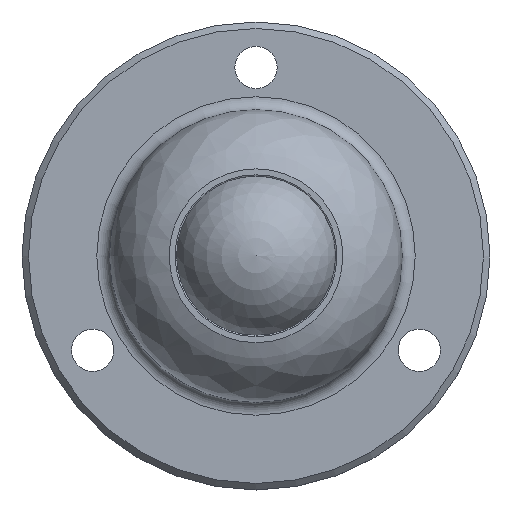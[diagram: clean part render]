
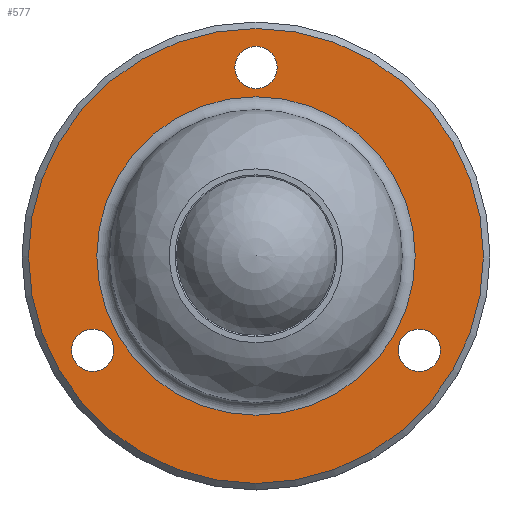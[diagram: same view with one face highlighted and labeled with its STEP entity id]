
A CAD part, top view. The second image highlights one B-rep face of the part: STEP entity #577.
In plain terms, the highlighted planar face has unit normal (0, 0, 1).
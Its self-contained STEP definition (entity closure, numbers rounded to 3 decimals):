
#64=FACE_BOUND('',#204,.T.);
#65=FACE_BOUND('',#205,.T.);
#66=FACE_BOUND('',#206,.T.);
#67=FACE_BOUND('',#207,.T.);
#109=PLANE('',#654);
#141=FACE_OUTER_BOUND('',#203,.T.);
#203=EDGE_LOOP('',(#474));
#204=EDGE_LOOP('',(#475));
#205=EDGE_LOOP('',(#476));
#206=EDGE_LOOP('',(#477));
#207=EDGE_LOOP('',(#478));
#247=CIRCLE('',#625,3.25);
#249=CIRCLE('',#628,3.25);
#251=CIRCLE('',#631,3.25);
#261=CIRCLE('',#653,35.);
#262=CIRCLE('',#655,24.5);
#298=VERTEX_POINT('',#934);
#300=VERTEX_POINT('',#939);
#302=VERTEX_POINT('',#944);
#312=VERTEX_POINT('',#976);
#313=VERTEX_POINT('',#979);
#357=EDGE_CURVE('',#298,#298,#247,.T.);
#359=EDGE_CURVE('',#300,#300,#249,.T.);
#361=EDGE_CURVE('',#302,#302,#251,.T.);
#371=EDGE_CURVE('',#312,#312,#261,.T.);
#372=EDGE_CURVE('',#313,#313,#262,.T.);
#474=ORIENTED_EDGE('',*,*,#371,.T.);
#475=ORIENTED_EDGE('',*,*,#357,.T.);
#476=ORIENTED_EDGE('',*,*,#359,.T.);
#477=ORIENTED_EDGE('',*,*,#361,.T.);
#478=ORIENTED_EDGE('',*,*,#372,.F.);
#577=ADVANCED_FACE('',(#141,#64,#65,#66,#67),#109,.T.);
#625=AXIS2_PLACEMENT_3D('',#935,#760,#761);
#628=AXIS2_PLACEMENT_3D('',#940,#766,#767);
#631=AXIS2_PLACEMENT_3D('',#945,#772,#773);
#653=AXIS2_PLACEMENT_3D('',#977,#816,#817);
#654=AXIS2_PLACEMENT_3D('',#978,#818,#819);
#655=AXIS2_PLACEMENT_3D('',#980,#820,#821);
#760=DIRECTION('center_axis',(0.,0.,-1.));
#761=DIRECTION('ref_axis',(-0.5,-0.866,0.));
#766=DIRECTION('center_axis',(0.,0.,-1.));
#767=DIRECTION('ref_axis',(-0.5,0.866,0.));
#772=DIRECTION('center_axis',(0.,0.,-1.));
#773=DIRECTION('ref_axis',(1.,0.,0.));
#816=DIRECTION('center_axis',(0.,0.,1.));
#817=DIRECTION('ref_axis',(0.,-1.,0.));
#818=DIRECTION('center_axis',(0.,0.,1.));
#819=DIRECTION('ref_axis',(1.,0.,0.));
#820=DIRECTION('center_axis',(0.,0.,1.));
#821=DIRECTION('ref_axis',(0.,-1.,0.));
#934=CARTESIAN_POINT('',(23.49,-17.315,5.));
#935=CARTESIAN_POINT('Origin',(25.115,-14.5,5.));
#939=CARTESIAN_POINT('',(-26.74,-11.685,5.));
#940=CARTESIAN_POINT('Origin',(-25.115,-14.5,5.));
#944=CARTESIAN_POINT('',(3.25,29.,5.));
#945=CARTESIAN_POINT('Origin',(0.,29.,5.));
#976=CARTESIAN_POINT('',(0.,-35.,5.));
#977=CARTESIAN_POINT('Origin',(0.,0.,5.));
#978=CARTESIAN_POINT('Origin',(0.,-29.75,5.));
#979=CARTESIAN_POINT('',(0.,-24.5,5.));
#980=CARTESIAN_POINT('Origin',(0.,0.,5.));
